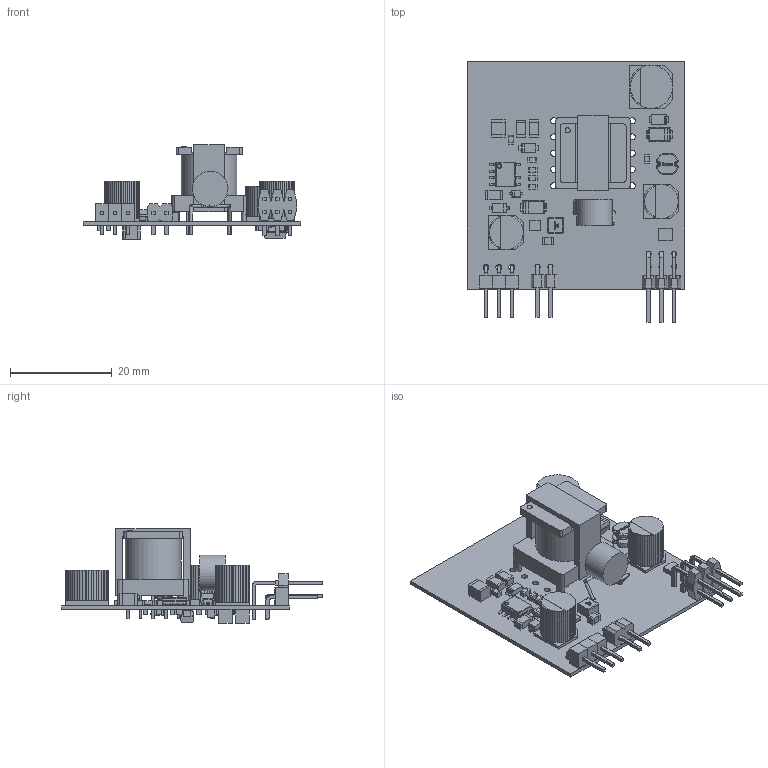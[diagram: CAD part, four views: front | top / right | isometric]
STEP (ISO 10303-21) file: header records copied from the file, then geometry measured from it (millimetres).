
FILE_DESCRIPTION(('Open CASCADE Model'),'2;1');
FILE_NAME('Open CASCADE Shape Model','2022-12-01T16:14:36',('Author'),( 'Open CASCADE'),'Open CASCADE STEP processor 6.8','Open CASCADE 6.8' ,'Unknown');
FILE_SCHEMA(('AUTOMOTIVE_DESIGN { 1 0 10303 214 1 1 1 1 }'));
Length unit declared in the file: millimetre
Products named in the file (157): PCB; Board; Open CASCADE STEP translator 6.8 2.1.1; C65; E1; Free-Models; 559113336; Cylinder; 559112376; 534321464; 534322184; Sphere; 6187738544; C66; 6187738144; Extruded; 6187737984; C67; 6187739024; 6187738864; C68; 6187845424; 6187845504; 6187845584; C69; 6187847504; 6187847344; C72; C73; 6187739424; 6187739264; C74; 6187847904; 6187847744; C75; C78; C79; C80; C81; C82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
Assembly tree (239 placements, depth 6):
  PCB
    Board
      Open CASCADE STEP translator 6.8 2.1.1
    C65
      E1  x2
        Board
        Free-Models
          559113336
            Cylinder
          559112376
            Cylinder
          534321464
            Cylinder
          534322184
            Sphere
      6187738544
        Cylinder
    C66
      6187738144  x2
        Extruded
      6187737984
        Extruded
    C67
      6187739024  x2
        Extruded
      6187738864
        Extruded
    C68
      6187845424
        Extruded
      6187845504
        Extruded
      6187845584
        Extruded
    C69
      6187847504  x2
        Extruded
      6187847344
        Extruded
    C72
      6187847504  x2
        Extruded
      6187847344
        Extruded
    C73
      6187739424  x2
        Extruded
      6187739264
        Extruded
    C74
      6187847904  x2
        Extruded
      6187847744
        Extruded
    C75
      6187847504  x2
        Extruded
      6187847344
        Extruded
    C78
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Bounding box: 42.8 x 51.39 x 18.71 mm (x, y, z)
Volume: 5124.2 mm3; surface area: 9318.6 mm2
Topology: 186 solids, 186 shells, 2425 faces, 5899 edges, 3871 vertices
Faces by surface type: plane 2045, cylinder 255, bspline 77, sphere 32, cone 11, extrusion 4, torus 1
Full cylindrical faces by diameter (mm): 0.3 x1, 0.6 x6, 0.64 x2, 0.9 x2, 1 x7, 1.016 x2, 1.16 x3, 1.2 x10, 2 x1, 7 x1, 11 x1
Entity records: 57989 total; most frequent: CARTESIAN_POINT 12495, ORIENTED_EDGE 7972, DIRECTION 7473, EDGE_CURVE 3986, VECTOR 3261, LINE 3257, VERTEX_POINT 2626, AXIS2_PLACEMENT_3D 2106
